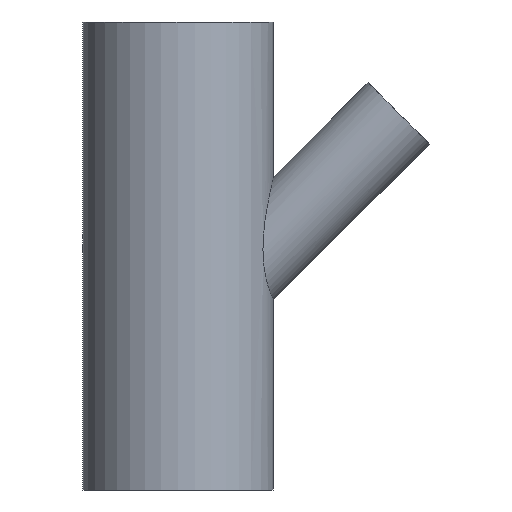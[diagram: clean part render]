
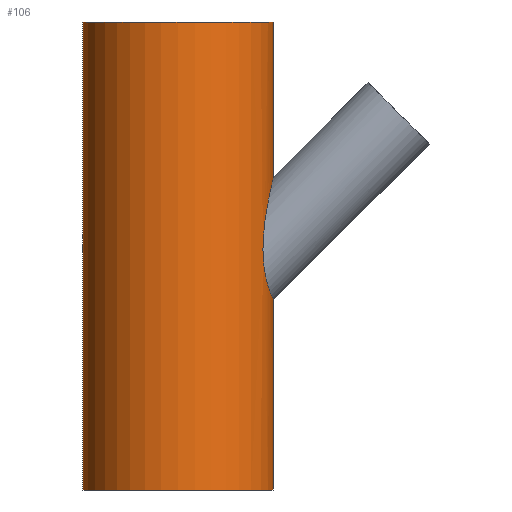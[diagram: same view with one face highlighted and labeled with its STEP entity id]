
A CAD part, front view. The second image highlights one B-rep face of the part: STEP entity #106.
In plain terms, the highlighted cylindrical face has radius 55 mm (diameter 110 mm), a full revolution.
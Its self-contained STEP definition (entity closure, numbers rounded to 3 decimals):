
#23=FACE_BOUND('',#47,.T.);
#24=FACE_BOUND('',#48,.T.);
#27=B_SPLINE_CURVE_WITH_KNOTS('',3,(#239,#240,#241,#242,#243,#244,#245,
#246,#247,#248,#249,#250,#251,#252,#253,#254,#255,#256,#257,#258,#259,#260,
#261,#262,#263,#264,#265,#266,#267,#268,#269,#270,#271,#272,#273,#274,#275,
#276,#277,#278,#279,#280,#281,#282,#283,#284,#285,#286,#287,#288,#289,#290,
#291,#292,#293,#294,#295,#296),.UNSPECIFIED.,.T.,.F.,(4,2,2,2,2,2,2,2,2,
2,2,2,2,2,2,2,2,2,2,2,2,2,2,2,2,2,2,2,4),(0.,0.784,1.569,
3.138,4.115,4.603,5.092,5.58,
6.069,7.046,8.615,9.399,10.184,
10.779,11.374,11.969,12.563,13.024,
13.485,13.945,14.406,14.866,15.327,
15.787,16.248,16.843,17.438,18.033,
18.628),.UNSPECIFIED.);
#33=FACE_OUTER_BOUND('',#46,.T.);
#46=EDGE_LOOP('',(#84));
#47=EDGE_LOOP('',(#85));
#48=EDGE_LOOP('',(#86));
#55=CIRCLE('',#137,55.);
#56=CIRCLE('',#139,55.);
#62=VERTEX_POINT('',#238);
#63=VERTEX_POINT('',#299);
#64=VERTEX_POINT('',#302);
#70=EDGE_CURVE('',#62,#62,#27,.T.);
#71=EDGE_CURVE('',#63,#63,#55,.T.);
#72=EDGE_CURVE('',#64,#64,#56,.T.);
#84=ORIENTED_EDGE('',*,*,#71,.T.);
#85=ORIENTED_EDGE('',*,*,#70,.T.);
#86=ORIENTED_EDGE('',*,*,#72,.F.);
#92=CYLINDRICAL_SURFACE('',#138,55.);
#106=ADVANCED_FACE('',(#33,#23,#24),#92,.T.);
#137=AXIS2_PLACEMENT_3D('',#300,#161,#162);
#138=AXIS2_PLACEMENT_3D('',#301,#163,#164);
#139=AXIS2_PLACEMENT_3D('',#303,#165,#166);
#161=DIRECTION('center_axis',(0.,0.,-1.));
#162=DIRECTION('ref_axis',(1.,0.,0.));
#163=DIRECTION('center_axis',(0.,0.,-1.));
#164=DIRECTION('ref_axis',(-1.,0.,0.));
#165=DIRECTION('center_axis',(0.,0.,-1.));
#166=DIRECTION('ref_axis',(1.,0.,0.));
#238=CARTESIAN_POINT('',(48.99,-25.,138.99));
#239=CARTESIAN_POINT('Ctrl Pts',(48.99,-25.,138.99));
#240=CARTESIAN_POINT('Ctrl Pts',(48.99,-25.,141.605));
#241=CARTESIAN_POINT('Ctrl Pts',(49.096,-24.794,144.315));
#242=CARTESIAN_POINT('Ctrl Pts',(49.494,-23.991,149.766));
#243=CARTESIAN_POINT('Ctrl Pts',(49.783,-23.396,152.508));
#244=CARTESIAN_POINT('Ctrl Pts',(50.833,-21.068,160.551));
#245=CARTESIAN_POINT('Ctrl Pts',(51.774,-18.805,165.671));
#246=CARTESIAN_POINT('Ctrl Pts',(53.197,-14.094,172.586));
#247=CARTESIAN_POINT('Ctrl Pts',(53.793,-11.785,175.243));
#248=CARTESIAN_POINT('Ctrl Pts',(54.472,-7.724,178.16));
#249=CARTESIAN_POINT('Ctrl Pts',(54.663,-6.271,178.958));
#250=CARTESIAN_POINT('Ctrl Pts',(54.927,-3.223,180.056));
#251=CARTESIAN_POINT('Ctrl Pts',(55.,-1.628,180.355));
#252=CARTESIAN_POINT('Ctrl Pts',(55.,1.628,180.355));
#253=CARTESIAN_POINT('Ctrl Pts',(54.927,3.223,180.056));
#254=CARTESIAN_POINT('Ctrl Pts',(54.663,6.271,178.958));
#255=CARTESIAN_POINT('Ctrl Pts',(54.472,7.724,178.16));
#256=CARTESIAN_POINT('Ctrl Pts',(53.793,11.785,175.243));
#257=CARTESIAN_POINT('Ctrl Pts',(53.197,14.094,172.586));
#258=CARTESIAN_POINT('Ctrl Pts',(51.774,18.805,165.671));
#259=CARTESIAN_POINT('Ctrl Pts',(50.833,21.068,160.551));
#260=CARTESIAN_POINT('Ctrl Pts',(49.783,23.396,152.508));
#261=CARTESIAN_POINT('Ctrl Pts',(49.494,23.991,149.766));
#262=CARTESIAN_POINT('Ctrl Pts',(49.096,24.794,144.315));
#263=CARTESIAN_POINT('Ctrl Pts',(48.99,25.,141.605));
#264=CARTESIAN_POINT('Ctrl Pts',(48.99,25.,137.007));
#265=CARTESIAN_POINT('Ctrl Pts',(49.051,24.881,134.938));
#266=CARTESIAN_POINT('Ctrl Pts',(49.335,24.314,130.806));
#267=CARTESIAN_POINT('Ctrl Pts',(49.558,23.865,128.744));
#268=CARTESIAN_POINT('Ctrl Pts',(50.154,22.584,124.795));
#269=CARTESIAN_POINT('Ctrl Pts',(50.529,21.75,122.906));
#270=CARTESIAN_POINT('Ctrl Pts',(51.362,19.701,119.444));
#271=CARTESIAN_POINT('Ctrl Pts',(51.82,18.486,117.871));
#272=CARTESIAN_POINT('Ctrl Pts',(52.614,16.064,115.446));
#273=CARTESIAN_POINT('Ctrl Pts',(52.97,14.865,114.458));
#274=CARTESIAN_POINT('Ctrl Pts',(53.638,12.24,112.731));
#275=CARTESIAN_POINT('Ctrl Pts',(53.948,10.814,111.99));
#276=CARTESIAN_POINT('Ctrl Pts',(54.461,7.829,110.807));
#277=CARTESIAN_POINT('Ctrl Pts',(54.664,6.268,110.364));
#278=CARTESIAN_POINT('Ctrl Pts',(54.934,3.121,109.782));
#279=CARTESIAN_POINT('Ctrl Pts',(55.,1.535,109.645));
#280=CARTESIAN_POINT('Ctrl Pts',(55.,-1.535,109.645));
#281=CARTESIAN_POINT('Ctrl Pts',(54.934,-3.121,109.782));
#282=CARTESIAN_POINT('Ctrl Pts',(54.664,-6.268,110.364));
#283=CARTESIAN_POINT('Ctrl Pts',(54.461,-7.829,110.807));
#284=CARTESIAN_POINT('Ctrl Pts',(53.948,-10.814,111.99));
#285=CARTESIAN_POINT('Ctrl Pts',(53.638,-12.24,112.731));
#286=CARTESIAN_POINT('Ctrl Pts',(52.97,-14.865,114.458));
#287=CARTESIAN_POINT('Ctrl Pts',(52.614,-16.064,115.446));
#288=CARTESIAN_POINT('Ctrl Pts',(51.82,-18.486,117.871));
#289=CARTESIAN_POINT('Ctrl Pts',(51.362,-19.701,119.444));
#290=CARTESIAN_POINT('Ctrl Pts',(50.529,-21.75,122.906));
#291=CARTESIAN_POINT('Ctrl Pts',(50.154,-22.584,124.795));
#292=CARTESIAN_POINT('Ctrl Pts',(49.558,-23.865,128.744));
#293=CARTESIAN_POINT('Ctrl Pts',(49.335,-24.314,130.806));
#294=CARTESIAN_POINT('Ctrl Pts',(49.051,-24.881,134.938));
#295=CARTESIAN_POINT('Ctrl Pts',(48.99,-25.,137.007));
#296=CARTESIAN_POINT('Ctrl Pts',(48.99,-25.,138.99));
#299=CARTESIAN_POINT('',(-55.,0.,270.));
#300=CARTESIAN_POINT('Origin',(0.,0.,270.));
#301=CARTESIAN_POINT('Origin',(0.,0.,135.));
#302=CARTESIAN_POINT('',(-55.,0.,0.));
#303=CARTESIAN_POINT('Origin',(0.,0.,0.));
